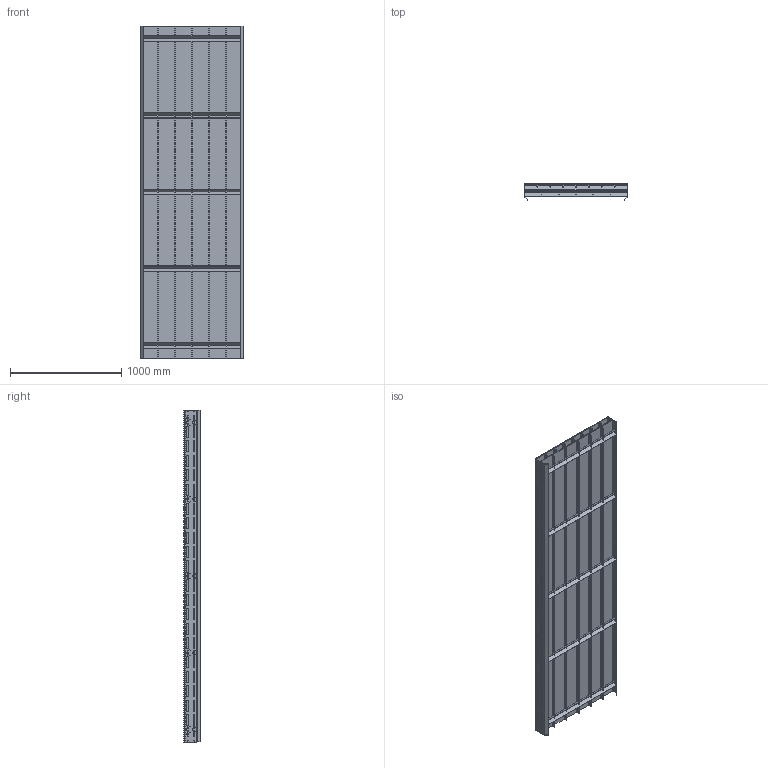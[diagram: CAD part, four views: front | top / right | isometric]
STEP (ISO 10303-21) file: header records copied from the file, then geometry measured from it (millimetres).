
FILE_DESCRIPTION (( 'STEP AP214' ), '1' );
FILE_NAME ('03.102S930.N FS-930-MTS2-100.INOX straight section L=2990.STEP', '2025-02-11T09:59:41', ( '' ), ( '' ), 'SwSTEP 2.0', 'SolidWorks 2024', '' );
FILE_SCHEMA (( 'AUTOMOTIVE_DESIGN' ));
Length unit declared in the file: millimetre
Products named in the file (1): 03.102S930.N FS-930-MTS2-100.INOX straight section L=2990
Bounding box: 929.5 x 145.63 x 2990 mm (x, y, z)
Volume: 58625492.7 mm3; surface area: 19035621.9 mm2
Topology: 28 solids, 28 shells, 1664 faces, 4824 edges, 3216 vertices
Faces by surface type: cylinder 930, plane 734
Entity records: 57106 total; most frequent: DIRECTION 10006, CARTESIAN_POINT 9729, ORIENTED_EDGE 9648, EDGE_CURVE 4824, AXIS2_PLACEMENT_3D 3525, VERTEX_POINT 3216, VECTOR 2956, LINE 2956
